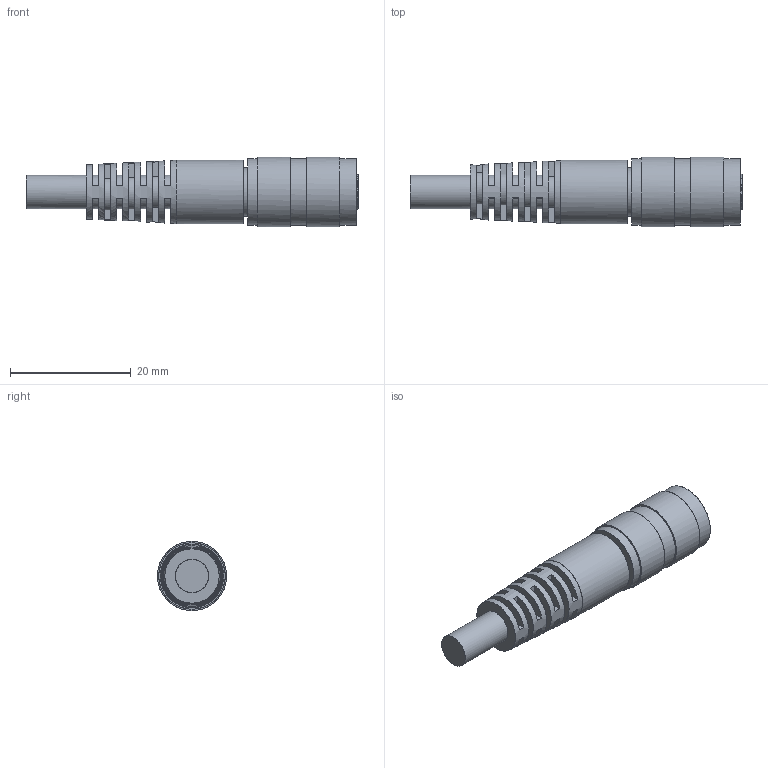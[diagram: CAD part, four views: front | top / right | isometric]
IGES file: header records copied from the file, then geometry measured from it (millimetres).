
Start section: C
Global section: file name: ESG 62FPxxxxG.igs; native system:  By UGS Corp.; preprocessor: XPlus GENERIC/IGES 3.0; author: Author; organization: Title; date: 20130430.143613; units: millimetre
Bounding box: 55 x 11.47 x 11.5 mm (x, y, z)
Surface area: 2962.5 mm2 (no closed solid volume)
Topology: 0 solids, 0 shells, 117 faces, 600 edges, 600 vertices
Faces by surface type: bspline 117
